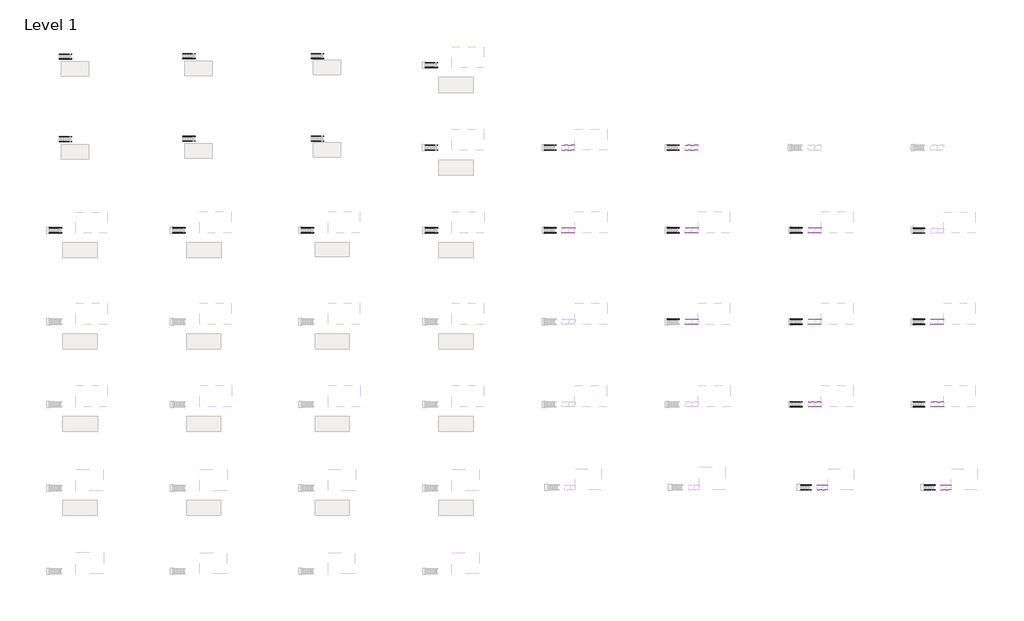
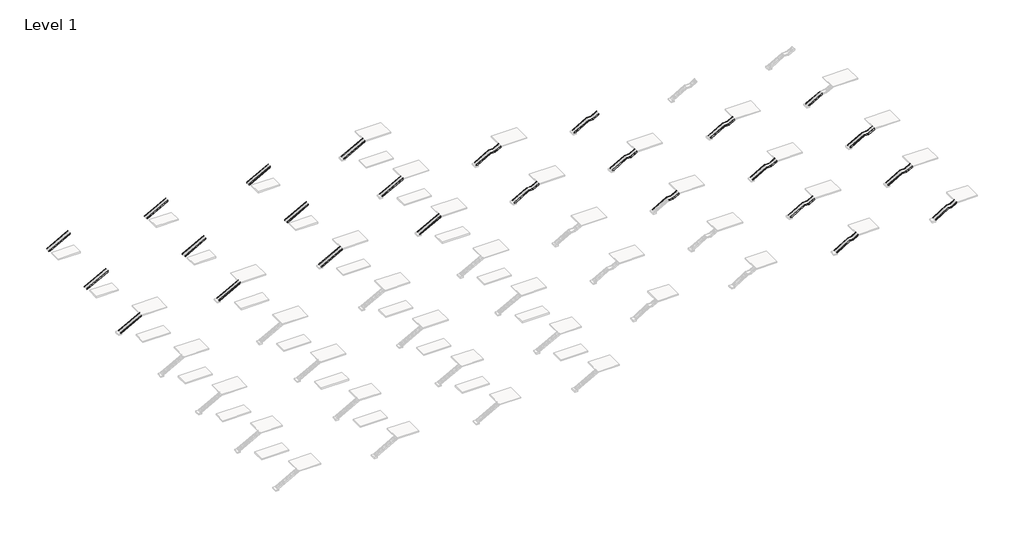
# One storey, part 20 of 21: 97 members.
"""IFC4 building model written with IfcOpenShell, lengths in millimetres."""

from ifc_helpers import new_model, si_unit, frame, origin, place, context, project, spatial, polyline, outline, extrude, element, save

model = new_model("IFC4")

# Units and contexts
model_context = context("Model", 3, world=origin())
ifc_project = project(units=[si_unit("LENGTHUNIT", "METRE", prefix="MILLI")], contexts=[model_context])

# Site, building, storey
site = spatial("IfcSite", under=ifc_project)
building = spatial("IfcBuilding", under=site)
storey = spatial("IfcBuildingStorey", under=building, Name="Level 1", Elevation=0.0)

# Members
placement = place(None, origin())
element("IfcMember", 1, ObjectType="Stringer - 2\" Width", at=placement, inside=storey, context=model_context, shape_type="SweptSolid", body=[
    extrude(outline(polyline([(177.1989729, -14498.1164794), (0.0, -14498.1164794), (0.0, -14212.9808448), (2753.9260175, -9164.1164794), (3086.6535184, -9164.1164794), (177.1989729, -14498.1164794)])), frame((0.0, 16760.4395941, 0.0), z_axis=(0.0, 1.0, 0.0), x_axis=(0.0, 0.0, 1.0)), (0.0, 0.0, 1.0), 50.8),
])
element("IfcMember", 2, ObjectType="Stringer - 2\" Width", at=placement, inside=storey, context=model_context, shape_type="SweptSolid", body=[
    extrude(outline(polyline([(177.1989729, -14498.1164794), (0.0, -14498.1164794), (0.0, -14212.9808448), (2753.9260175, -9164.1164794), (3086.6535184, -9164.1164794), (177.1989729, -14498.1164794)])), frame((0.0, 15795.2395941, 0.0), z_axis=(0.0, 1.0, 0.0), x_axis=(0.0, 0.0, 1.0)), (0.0, 0.0, 1.0), 50.8),
])
element("IfcMember", 3, ObjectType="Stringer - 2\" Width", at=placement, inside=storey, context=model_context, shape_type="SweptSolid", body=[
    extrude(outline(polyline([(177.1989729, 10178.8572927), (0.0, 10178.8572927), (0.0, 10463.9929272), (2753.9260175, 15512.8572927), (3086.6535184, 15512.8572927), (177.1989729, 10178.8572927)])), frame((0.0, 16760.4395941, 0.0), z_axis=(0.0, 1.0, 0.0), x_axis=(0.0, 0.0, 1.0)), (0.0, 0.0, 1.0), 50.8),
])
element("IfcMember", 4, ObjectType="Stringer - 2\" Width", at=placement, inside=storey, context=model_context, shape_type="SweptSolid", body=[
    extrude(outline(polyline([(177.1989729, 10178.8572927), (0.0, 10178.8572927), (0.0, 10463.9929272), (2753.9260175, 15512.8572927), (3086.6535184, 15512.8572927), (177.1989729, 10178.8572927)])), frame((0.0, 15795.2395941, 0.0), z_axis=(0.0, 1.0, 0.0), x_axis=(0.0, 0.0, 1.0)), (0.0, 0.0, 1.0), 50.8),
])
element("IfcMember", 5, ObjectType="Stringer - 2\" Width", at=placement, inside=storey, context=model_context, shape_type="SweptSolid", body=[
    extrude(outline(polyline([(177.1989729, 35782.0572927), (0.0, 35782.0572927), (0.0, 36067.1929272), (2753.9260175, 41116.0572927), (3086.6535184, 41116.0572927), (177.1989729, 35782.0572927)])), frame((0.0, 16760.4395941, 0.0), z_axis=(0.0, 1.0, 0.0), x_axis=(0.0, 0.0, 1.0)), (0.0, 0.0, 1.0), 50.8),
])
element("IfcMember", 6, ObjectType="Stringer - 2\" Width", at=placement, inside=storey, context=model_context, shape_type="SweptSolid", body=[
    extrude(outline(polyline([(177.1989729, 35782.0572927), (0.0, 35782.0572927), (0.0, 36067.1929272), (2753.9260175, 41116.0572927), (3086.6535184, 41116.0572927), (177.1989729, 35782.0572927)])), frame((0.0, 15795.2395941, 0.0), z_axis=(0.0, 1.0, 0.0), x_axis=(0.0, 0.0, 1.0)), (0.0, 0.0, 1.0), 50.8),
])
element("IfcMember", 7, ObjectType="Stringer - 2\" Width", at=placement, inside=storey, context=model_context, shape_type="SweptSolid", body=[
    extrude(outline(polyline([(177.1989729, 60459.0310647), (0.0, 60459.0310647), (0.0, 60744.1666993), (2753.9260175, 65793.0310647), (3086.6535184, 65793.0310647), (177.1989729, 60459.0310647)])), frame((0.0, 16760.4395941, 0.0), z_axis=(0.0, 1.0, 0.0), x_axis=(0.0, 0.0, 1.0)), (0.0, 0.0, 1.0), 50.8),
])
element("IfcMember", 8, ObjectType="Stringer - 2\" Width", at=placement, inside=storey, context=model_context, shape_type="SweptSolid", body=[
    extrude(outline(polyline([(177.1989729, 60459.0310647), (0.0, 60459.0310647), (0.0, 60744.1666993), (2753.9260175, 65793.0310647), (3086.6535184, 65793.0310647), (177.1989729, 60459.0310647)])), frame((0.0, 15795.2395941, 0.0), z_axis=(0.0, 1.0, 0.0), x_axis=(0.0, 0.0, 1.0)), (0.0, 0.0, 1.0), 50.8),
])
element("IfcMember", 9, ObjectType="Stringer - 2\" Width", at=placement, inside=storey, context=model_context, shape_type="SweptSolid", body=[
    extrude(outline(polyline([(177.1989729, 37771.4291841), (0.0, 37771.4291841), (0.0, 38056.5648187), (2753.9260175, 43105.4291841), (3086.6535184, 43105.4291841), (177.1989729, 37771.4291841)])), frame((0.0, 35051.4052558, 0.0), z_axis=(0.0, 1.0, 0.0), x_axis=(0.0, 0.0, 1.0)), (0.0, 0.0, 1.0), 50.8),
])
element("IfcMember", 10, ObjectType="Stringer - 2\" Width", at=placement, inside=storey, context=model_context, shape_type="SweptSolid", body=[
    extrude(outline(polyline([(177.1989729, 37771.4291841), (0.0, 37771.4291841), (0.0, 38056.5648187), (2753.9260175, 43105.4291841), (3086.6535184, 43105.4291841), (177.1989729, 37771.4291841)])), frame((0.0, 34086.2052558, 0.0), z_axis=(0.0, 1.0, 0.0), x_axis=(0.0, 0.0, 1.0)), (0.0, 0.0, 1.0), 50.8),
])
element("IfcMember", 11, ObjectType="Stringer - 2\" Width", at=placement, inside=storey, context=model_context, shape_type="SweptSolid", body=[
    extrude(outline(polyline([(177.1989729, 12106.3166841), (0.0, 12106.3166841), (0.0, 12391.4523187), (2753.9260175, 17440.3166841), (3086.6535184, 17440.3166841), (177.1989729, 12106.3166841)])), frame((0.0, 35025.5929977, 0.0), z_axis=(0.0, 1.0, 0.0), x_axis=(0.0, 0.0, 1.0)), (0.0, 0.0, 1.0), 50.8),
])
element("IfcMember", 12, ObjectType="Stringer - 2\" Width", at=placement, inside=storey, context=model_context, shape_type="SweptSolid", body=[
    extrude(outline(polyline([(177.1989729, 12106.3166841), (0.0, 12106.3166841), (0.0, 12391.4523187), (2753.9260175, 17440.3166841), (3086.6535184, 17440.3166841), (177.1989729, 12106.3166841)])), frame((0.0, 34060.3929977, 0.0), z_axis=(0.0, 1.0, 0.0), x_axis=(0.0, 0.0, 1.0)), (0.0, 0.0, 1.0), 50.8),
])
element("IfcMember", 13, ObjectType="Stringer - 2\" Width", at=placement, inside=storey, context=model_context, shape_type="SweptSolid", body=[
    extrude(outline(polyline([(177.1989729, -12457.4656525), (0.0, -12457.4656525), (0.0, -12172.3300179), (2753.9260175, -7123.4656525), (3086.6535184, -7123.4656525), (177.1989729, -12457.4656525)])), frame((0.0, 34948.402192, 0.0), z_axis=(0.0, 1.0, 0.0), x_axis=(0.0, 0.0, 1.0)), (0.0, 0.0, 1.0), 50.8),
])
element("IfcMember", 14, ObjectType="Stringer - 2\" Width", at=placement, inside=storey, context=model_context, shape_type="SweptSolid", body=[
    extrude(outline(polyline([(177.1989729, -12457.4656525), (0.0, -12457.4656525), (0.0, -12172.3300179), (2753.9260175, -7123.4656525), (3086.6535184, -7123.4656525), (177.1989729, -12457.4656525)])), frame((0.0, 33983.202192, 0.0), z_axis=(0.0, 1.0, 0.0), x_axis=(0.0, 0.0, 1.0)), (0.0, 0.0, 1.0), 50.8),
])
element("IfcMember", 15, ObjectType="Stringer - 2\" Width", at=placement, inside=storey, context=model_context, shape_type="SweptSolid", body=[
    extrude(outline(polyline([(177.1989729, 60449.2027721), (0.0, 60449.2027721), (0.0, 60734.3384067), (2753.9260175, 65783.2027721), (3086.6535184, 65783.2027721), (177.1989729, 60449.2027721)])), frame((0.0, 33246.6812523, 0.0), z_axis=(0.0, 1.0, 0.0), x_axis=(0.0, 0.0, 1.0)), (0.0, 0.0, 1.0), 50.8),
])
element("IfcMember", 16, ObjectType="Stringer - 2\" Width", at=placement, inside=storey, context=model_context, shape_type="SweptSolid", body=[
    extrude(outline(polyline([(177.1989729, 60449.2027721), (0.0, 60449.2027721), (0.0, 60734.3384067), (2753.9260175, 65783.2027721), (3086.6535184, 65783.2027721), (177.1989729, 60449.2027721)])), frame((0.0, 32281.4812523, 0.0), z_axis=(0.0, 1.0, 0.0), x_axis=(0.0, 0.0, 1.0)), (0.0, 0.0, 1.0), 50.8),
])
element("IfcMember", 17, ObjectType="Stringer - 2\" Width", at=placement, inside=storey, context=model_context, shape_type="SweptSolid", body=[
    extrude(outline(polyline([(177.1989729, 37771.4291841), (0.0, 37771.4291841), (0.0, 38056.5648187), (2753.9260175, 43105.4291841), (3086.6535184, 43105.4291841), (177.1989729, 37771.4291841)])), frame((0.0, 51519.3186802, 0.0), z_axis=(0.0, 1.0, 0.0), x_axis=(0.0, 0.0, 1.0)), (0.0, 0.0, 1.0), 50.8),
])
element("IfcMember", 18, ObjectType="Stringer - 2\" Width", at=placement, inside=storey, context=model_context, shape_type="SweptSolid", body=[
    extrude(outline(polyline([(177.1989729, 37771.4291841), (0.0, 37771.4291841), (0.0, 38056.5648187), (2753.9260175, 43105.4291841), (3086.6535184, 43105.4291841), (177.1989729, 37771.4291841)])), frame((0.0, 50554.1186802, 0.0), z_axis=(0.0, 1.0, 0.0), x_axis=(0.0, 0.0, 1.0)), (0.0, 0.0, 1.0), 50.8),
])
element("IfcMember", 19, ObjectType="Stringer - 2\" Width", at=placement, inside=storey, context=model_context, shape_type="SweptSolid", body=[
    extrude(outline(polyline([(177.1989729, -12457.4656525), (0.0, -12457.4656525), (0.0, -12172.3300179), (2753.9260175, -7123.4656525), (3086.6535184, -7123.4656525), (177.1989729, -12457.4656525)])), frame((0.0, 51416.3156164, 0.0), z_axis=(0.0, 1.0, 0.0), x_axis=(0.0, 0.0, 1.0)), (0.0, 0.0, 1.0), 50.8),
])
element("IfcMember", 20, ObjectType="Stringer - 2\" Width", at=placement, inside=storey, context=model_context, shape_type="SweptSolid", body=[
    extrude(outline(polyline([(177.1989729, -12457.4656525), (0.0, -12457.4656525), (0.0, -12172.3300179), (2753.9260175, -7123.4656525), (3086.6535184, -7123.4656525), (177.1989729, -12457.4656525)])), frame((0.0, 50451.1156164, 0.0), z_axis=(0.0, 1.0, 0.0), x_axis=(0.0, 0.0, 1.0)), (0.0, 0.0, 1.0), 50.8),
])
element("IfcMember", 21, ObjectType="Stringer - 2\" Width", at=placement, inside=storey, context=model_context, shape_type="SweptSolid", body=[
    extrude(outline(polyline([(177.1989729, 60449.2027721), (0.0, 60449.2027721), (0.0, 60734.3384067), (2753.9260175, 65783.2027721), (3086.6535184, 65783.2027721), (177.1989729, 60449.2027721)])), frame((0.0, 49714.5946767, 0.0), z_axis=(0.0, 1.0, 0.0), x_axis=(0.0, 0.0, 1.0)), (0.0, 0.0, 1.0), 50.8),
])
element("IfcMember", 22, ObjectType="Stringer - 2\" Width", at=placement, inside=storey, context=model_context, shape_type="SweptSolid", body=[
    extrude(outline(polyline([(177.1989729, 60449.2027721), (0.0, 60449.2027721), (0.0, 60734.3384067), (2753.9260175, 65783.2027721), (3086.6535184, 65783.2027721), (177.1989729, 60449.2027721)])), frame((0.0, 48749.3946767, 0.0), z_axis=(0.0, 1.0, 0.0), x_axis=(0.0, 0.0, 1.0)), (0.0, 0.0, 1.0), 50.8),
])
element("IfcMember", 23, ObjectType="Stringer - 2\" Width", at=placement, inside=storey, context=model_context, shape_type="SweptSolid", body=[
    extrude(outline(polyline([(177.1989729, 12106.3166841), (0.0, 12106.3166841), (0.0, 12391.4523187), (2753.9260175, 17440.3166841), (3086.6535184, 17440.3166841), (177.1989729, 12106.3166841)])), frame((0.0, 51519.3186802, 0.0), z_axis=(0.0, 1.0, 0.0), x_axis=(0.0, 0.0, 1.0)), (0.0, 0.0, 1.0), 50.8),
])
element("IfcMember", 24, ObjectType="Stringer - 2\" Width", at=placement, inside=storey, context=model_context, shape_type="SweptSolid", body=[
    extrude(outline(polyline([(177.1989729, 12106.3166841), (0.0, 12106.3166841), (0.0, 12391.4523187), (2753.9260175, 17440.3166841), (3086.6535184, 17440.3166841), (177.1989729, 12106.3166841)])), frame((0.0, 50554.1186802, 0.0), z_axis=(0.0, 1.0, 0.0), x_axis=(0.0, 0.0, 1.0)), (0.0, 0.0, 1.0), 50.8),
])
element("IfcMember", 25, ObjectType="Stringer - 2\" Width", at=placement, inside=storey, context=model_context, shape_type="SweptSolid", body=[
    extrude(outline(polyline([(179.6072535, 84186.3765442), (0.0, 84186.3765442), (0.0, 84460.8102226), (1916.7928571, 87815.1977226), (2208.8928571, 87737.6263506), (179.6072535, 84186.3765442)])), frame((0.0, 33246.6812523, 0.0), z_axis=(0.0, 1.0, 0.0), x_axis=(0.0, 0.0, 1.0)), (0.0, 0.0, 1.0), 50.8),
])
element("IfcMember", 26, ObjectType="Stringer - 2\" Width", at=placement, inside=storey, context=model_context, shape_type="SweptSolid", body=[
    extrude(outline(polyline([(179.6072535, 84186.3765442), (0.0, 84186.3765442), (0.0, 84460.8102226), (1916.7928571, 87815.1977226), (2208.8928571, 87737.6263506), (179.6072535, 84186.3765442)])), frame((0.0, 32281.4812523, 0.0), z_axis=(0.0, 1.0, 0.0), x_axis=(0.0, 0.0, 1.0)), (0.0, 0.0, 1.0), 50.8),
])
element("IfcMember", 27, ObjectType="Stringer - 2\" Width", at=placement, inside=storey, context=model_context, shape_type="SweptSolid", body=[
    extrude(outline(polyline([(2208.8928571, 88804.4263506), (1916.7928571, 88881.9977226), (2746.037898, 90333.1765442), (3048.0, 90333.1765442), (3048.0, 90272.8638506), (2208.8928571, 88804.4263506)])), frame((0.0, 33246.6812523, 0.0), z_axis=(0.0, 1.0, 0.0), x_axis=(0.0, 0.0, 1.0)), (0.0, 0.0, 1.0), 50.8),
])
element("IfcMember", 28, ObjectType="Stringer - 2\" Width", at=placement, inside=storey, context=model_context, shape_type="SweptSolid", body=[
    extrude(outline(polyline([(2208.8928571, 88804.4263506), (1916.7928571, 88881.9977226), (2746.037898, 90333.1765442), (3048.0, 90333.1765442), (3048.0, 90272.8638506), (2208.8928571, 88804.4263506)])), frame((0.0, 32281.4812523, 0.0), z_axis=(0.0, 1.0, 0.0), x_axis=(0.0, 0.0, 1.0)), (0.0, 0.0, 1.0), 50.8),
])
element("IfcMember", 29, ObjectType="Stringer - 2\" Width", at=placement, inside=storey, context=model_context, shape_type="SweptSolid", body=[
    extrude(outline(polyline([(1916.7928571, 88881.9977226), (2208.8928571, 88804.4263506), (2208.8928571, 87737.6263506), (1916.7928571, 87815.1977226), (1916.7928571, 88881.9977226)])), frame((0.0, 33246.6812523, 0.0), z_axis=(0.0, 1.0, 0.0), x_axis=(0.0, 0.0, 1.0)), (0.0, 0.0, 1.0), 50.8),
])
element("IfcMember", 30, ObjectType="Stringer - 2\" Width", at=placement, inside=storey, context=model_context, shape_type="SweptSolid", body=[
    extrude(outline(polyline([(2208.8928571, 87737.6263506), (1916.7928571, 87815.1977226), (1916.7928571, 88881.9977226), (2208.8928571, 88804.4263506), (2208.8928571, 87737.6263506)])), frame((0.0, 32281.4812523, 0.0), z_axis=(0.0, 1.0, 0.0), x_axis=(0.0, 0.0, 1.0)), (0.0, 0.0, 1.0), 50.8),
])
element("IfcMember", 31, ObjectType="Stringer - 2\" Width", at=placement, inside=storey, context=model_context, shape_type="SweptSolid", body=[
    extrude(outline(polyline([(179.6072535, 84196.2048368), (0.0, 84196.2048368), (0.0, 84470.6385153), (1916.7928571, 87825.0260153), (2208.8928571, 87747.4546432), (179.6072535, 84196.2048368)])), frame((0.0, 16760.4395941, 0.0), z_axis=(0.0, 1.0, 0.0), x_axis=(0.0, 0.0, 1.0)), (0.0, 0.0, 1.0), 50.8),
])
element("IfcMember", 32, ObjectType="Stringer - 2\" Width", at=placement, inside=storey, context=model_context, shape_type="SweptSolid", body=[
    extrude(outline(polyline([(179.6072535, 84196.2048368), (0.0, 84196.2048368), (0.0, 84470.6385153), (1916.7928571, 87825.0260153), (2208.8928571, 87747.4546432), (179.6072535, 84196.2048368)])), frame((0.0, 15795.2395941, 0.0), z_axis=(0.0, 1.0, 0.0), x_axis=(0.0, 0.0, 1.0)), (0.0, 0.0, 1.0), 50.8),
])
element("IfcMember", 33, ObjectType="Stringer - 2\" Width", at=placement, inside=storey, context=model_context, shape_type="SweptSolid", body=[
    extrude(outline(polyline([(2208.8928571, 88814.2546432), (1916.7928571, 88891.8260153), (2746.037898, 90343.0048368), (3048.0, 90343.0048368), (3048.0, 90282.6921432), (2208.8928571, 88814.2546432)])), frame((0.0, 16760.4395941, 0.0), z_axis=(0.0, 1.0, 0.0), x_axis=(0.0, 0.0, 1.0)), (0.0, 0.0, 1.0), 50.8),
])
element("IfcMember", 34, ObjectType="Stringer - 2\" Width", at=placement, inside=storey, context=model_context, shape_type="SweptSolid", body=[
    extrude(outline(polyline([(2208.8928571, 88814.2546432), (1916.7928571, 88891.8260153), (2746.037898, 90343.0048368), (3048.0, 90343.0048368), (3048.0, 90282.6921432), (2208.8928571, 88814.2546432)])), frame((0.0, 15795.2395941, 0.0), z_axis=(0.0, 1.0, 0.0), x_axis=(0.0, 0.0, 1.0)), (0.0, 0.0, 1.0), 50.8),
])
element("IfcMember", 35, ObjectType="Stringer - 2\" Width", at=placement, inside=storey, context=model_context, shape_type="SweptSolid", body=[
    extrude(outline(polyline([(1916.7928571, 88891.8260153), (2208.8928571, 88814.2546432), (2208.8928571, 87747.4546432), (1916.7928571, 87825.0260153), (1916.7928571, 88891.8260153)])), frame((0.0, 16760.4395941, 0.0), z_axis=(0.0, 1.0, 0.0), x_axis=(0.0, 0.0, 1.0)), (0.0, 0.0, 1.0), 50.8),
])
element("IfcMember", 36, ObjectType="Stringer - 2\" Width", at=placement, inside=storey, context=model_context, shape_type="SweptSolid", body=[
    extrude(outline(polyline([(2208.8928571, 87747.4546432), (1916.7928571, 87825.0260153), (1916.7928571, 88891.8260153), (2208.8928571, 88814.2546432), (2208.8928571, 87747.4546432)])), frame((0.0, 15795.2395941, 0.0), z_axis=(0.0, 1.0, 0.0), x_axis=(0.0, 0.0, 1.0)), (0.0, 0.0, 1.0), 50.8),
])
element("IfcMember", 37, ObjectType="Stringer - 2\" Width", at=placement, inside=storey, context=model_context, shape_type="SweptSolid", body=[
    extrude(outline(polyline([(179.6072535, 108746.1786089), (0.0, 108746.1786089), (0.0, 109020.6122873), (1916.7928571, 112374.9997873), (2208.8928571, 112297.4284152), (179.6072535, 108746.1786089)])), frame((0.0, 16760.4395941, 0.0), z_axis=(0.0, 1.0, 0.0), x_axis=(0.0, 0.0, 1.0)), (0.0, 0.0, 1.0), 50.8),
])
element("IfcMember", 38, ObjectType="Stringer - 2\" Width", at=placement, inside=storey, context=model_context, shape_type="SweptSolid", body=[
    extrude(outline(polyline([(179.6072535, 108746.1786089), (0.0, 108746.1786089), (0.0, 109020.6122873), (1916.7928571, 112374.9997873), (2208.8928571, 112297.4284152), (179.6072535, 108746.1786089)])), frame((0.0, 15795.2395941, 0.0), z_axis=(0.0, 1.0, 0.0), x_axis=(0.0, 0.0, 1.0)), (0.0, 0.0, 1.0), 50.8),
])
element("IfcMember", 39, ObjectType="Stringer - 2\" Width", at=placement, inside=storey, context=model_context, shape_type="SweptSolid", body=[
    extrude(outline(polyline([(2208.8928571, 113364.2284152), (1916.7928571, 113441.7997873), (2746.037898, 114892.9786089), (3048.0, 114892.9786089), (3048.0, 114832.6659152), (2208.8928571, 113364.2284152)])), frame((0.0, 16760.4395941, 0.0), z_axis=(0.0, 1.0, 0.0), x_axis=(0.0, 0.0, 1.0)), (0.0, 0.0, 1.0), 50.8),
])
element("IfcMember", 40, ObjectType="Stringer - 2\" Width", at=placement, inside=storey, context=model_context, shape_type="SweptSolid", body=[
    extrude(outline(polyline([(2208.8928571, 113364.2284152), (1916.7928571, 113441.7997873), (2746.037898, 114892.9786089), (3048.0, 114892.9786089), (3048.0, 114832.6659152), (2208.8928571, 113364.2284152)])), frame((0.0, 15795.2395941, 0.0), z_axis=(0.0, 1.0, 0.0), x_axis=(0.0, 0.0, 1.0)), (0.0, 0.0, 1.0), 50.8),
])
element("IfcMember", 41, ObjectType="Stringer - 2\" Width", at=placement, inside=storey, context=model_context, shape_type="SweptSolid", body=[
    extrude(outline(polyline([(1916.7928571, 113441.7997873), (2208.8928571, 113364.2284152), (2208.8928571, 112297.4284152), (1916.7928571, 112374.9997873), (1916.7928571, 113441.7997873)])), frame((0.0, 16760.4395941, 0.0), z_axis=(0.0, 1.0, 0.0), x_axis=(0.0, 0.0, 1.0)), (0.0, 0.0, 1.0), 50.8),
])
element("IfcMember", 42, ObjectType="Stringer - 2\" Width", at=placement, inside=storey, context=model_context, shape_type="SweptSolid", body=[
    extrude(outline(polyline([(2208.8928571, 112297.4284152), (1916.7928571, 112374.9997873), (1916.7928571, 113441.7997873), (2208.8928571, 113364.2284152), (2208.8928571, 112297.4284152)])), frame((0.0, 15795.2395941, 0.0), z_axis=(0.0, 1.0, 0.0), x_axis=(0.0, 0.0, 1.0)), (0.0, 0.0, 1.0), 50.8),
])
element("IfcMember", 43, ObjectType="Stringer - 2\" Width", at=placement, inside=storey, context=model_context, shape_type="SweptSolid", body=[
    extrude(outline(polyline([(179.6072535, 108746.1786089), (0.0, 108746.1786089), (0.0, 109020.6122873), (1916.7928571, 112374.9997873), (2208.8928571, 112297.4284152), (179.6072535, 108746.1786089)])), frame((0.0, -1486.3855758, 0.0), z_axis=(0.0, 1.0, 0.0), x_axis=(0.0, 0.0, 1.0)), (0.0, 0.0, 1.0), 50.8),
])
element("IfcMember", 44, ObjectType="Stringer - 2\" Width", at=placement, inside=storey, context=model_context, shape_type="SweptSolid", body=[
    extrude(outline(polyline([(2208.8928571, 113364.2284152), (1916.7928571, 113441.7997873), (2746.037898, 114892.9786089), (3048.0, 114892.9786089), (3048.0, 114832.6659152), (2208.8928571, 113364.2284152)])), frame((0.0, -1486.3855758, 0.0), z_axis=(0.0, 1.0, 0.0), x_axis=(0.0, 0.0, 1.0)), (0.0, 0.0, 1.0), 50.8),
])
element("IfcMember", 45, ObjectType="Stringer - 2\" Width", at=placement, inside=storey, context=model_context, shape_type="SweptSolid", body=[
    extrude(outline(polyline([(2208.8928571, 113364.2284152), (1916.7928571, 113441.7997873), (2746.037898, 114892.9786089), (3048.0, 114892.9786089), (3048.0, 114832.6659152), (2208.8928571, 113364.2284152)])), frame((0.0, -2451.5855758, 0.0), z_axis=(0.0, 1.0, 0.0), x_axis=(0.0, 0.0, 1.0)), (0.0, 0.0, 1.0), 50.8),
])
element("IfcMember", 46, ObjectType="Stringer - 2\" Width", at=placement, inside=storey, context=model_context, shape_type="SweptSolid", body=[
    extrude(outline(polyline([(1916.7928571, 113441.7997873), (2208.8928571, 113364.2284152), (2208.8928571, 112297.4284152), (1916.7928571, 112374.9997873), (1916.7928571, 113441.7997873)])), frame((0.0, -1486.3855758, 0.0), z_axis=(0.0, 1.0, 0.0), x_axis=(0.0, 0.0, 1.0)), (0.0, 0.0, 1.0), 50.8),
])
element("IfcMember", 47, ObjectType="Stringer - 2\" Width", at=placement, inside=storey, context=model_context, shape_type="SweptSolid", body=[
    extrude(outline(polyline([(2208.8928571, 112297.4284152), (1916.7928571, 112374.9997873), (1916.7928571, 113441.7997873), (2208.8928571, 113364.2284152), (2208.8928571, 112297.4284152)])), frame((0.0, -2451.5855758, 0.0), z_axis=(0.0, 1.0, 0.0), x_axis=(0.0, 0.0, 1.0)), (0.0, 0.0, 1.0), 50.8),
])
element("IfcMember", 48, ObjectType="Stringer - 2\" Width", at=placement, inside=storey, context=model_context, shape_type="SweptSolid", body=[
    extrude(outline(polyline([(179.6072535, 108736.3503162), (0.0, 108736.3503162), (0.0, 109010.7839947), (1916.7928571, 112365.1714947), (2208.8928571, 112287.6001226), (179.6072535, 108736.3503162)])), frame((0.0, 33246.6812523, 0.0), z_axis=(0.0, 1.0, 0.0), x_axis=(0.0, 0.0, 1.0)), (0.0, 0.0, 1.0), 50.8),
])
element("IfcMember", 49, ObjectType="Stringer - 2\" Width", at=placement, inside=storey, context=model_context, shape_type="SweptSolid", body=[
    extrude(outline(polyline([(179.6072535, 108736.3503162), (0.0, 108736.3503162), (0.0, 109010.7839947), (1916.7928571, 112365.1714947), (2208.8928571, 112287.6001226), (179.6072535, 108736.3503162)])), frame((0.0, 32281.4812523, 0.0), z_axis=(0.0, 1.0, 0.0), x_axis=(0.0, 0.0, 1.0)), (0.0, 0.0, 1.0), 50.8),
])
element("IfcMember", 50, ObjectType="Stringer - 2\" Width", at=placement, inside=storey, context=model_context, shape_type="SweptSolid", body=[
    extrude(outline(polyline([(2208.8928571, 113354.4001226), (1916.7928571, 113431.9714947), (2746.037898, 114883.1503162), (3048.0, 114883.1503162), (3048.0, 114822.8376226), (2208.8928571, 113354.4001226)])), frame((0.0, 33246.6812523, 0.0), z_axis=(0.0, 1.0, 0.0), x_axis=(0.0, 0.0, 1.0)), (0.0, 0.0, 1.0), 50.8),
])
element("IfcMember", 51, ObjectType="Stringer - 2\" Width", at=placement, inside=storey, context=model_context, shape_type="SweptSolid", body=[
    extrude(outline(polyline([(2208.8928571, 113354.4001226), (1916.7928571, 113431.9714947), (2746.037898, 114883.1503162), (3048.0, 114883.1503162), (3048.0, 114822.8376226), (2208.8928571, 113354.4001226)])), frame((0.0, 32281.4812523, 0.0), z_axis=(0.0, 1.0, 0.0), x_axis=(0.0, 0.0, 1.0)), (0.0, 0.0, 1.0), 50.8),
])
element("IfcMember", 52, ObjectType="Stringer - 2\" Width", at=placement, inside=storey, context=model_context, shape_type="SweptSolid", body=[
    extrude(outline(polyline([(1916.7928571, 113431.9714947), (2208.8928571, 113354.4001226), (2208.8928571, 112287.6001226), (1916.7928571, 112365.1714947), (1916.7928571, 113431.9714947)])), frame((0.0, 33246.6812523, 0.0), z_axis=(0.0, 1.0, 0.0), x_axis=(0.0, 0.0, 1.0)), (0.0, 0.0, 1.0), 50.8),
])
element("IfcMember", 53, ObjectType="Stringer - 2\" Width", at=placement, inside=storey, context=model_context, shape_type="SweptSolid", body=[
    extrude(outline(polyline([(2208.8928571, 112287.6001226), (1916.7928571, 112365.1714947), (1916.7928571, 113431.9714947), (2208.8928571, 113354.4001226), (2208.8928571, 112287.6001226)])), frame((0.0, 32281.4812523, 0.0), z_axis=(0.0, 1.0, 0.0), x_axis=(0.0, 0.0, 1.0)), (0.0, 0.0, 1.0), 50.8),
])
element("IfcMember", 54, ObjectType="Stringer - 2\" Width", at=placement, inside=storey, context=model_context, shape_type="SweptSolid", body=[
    extrude(outline(polyline([(179.6072535, 133296.1523809), (0.0, 133296.1523809), (0.0, 133570.5860594), (1916.7928571, 136924.9735594), (2208.8928571, 136847.4021873), (179.6072535, 133296.1523809)])), frame((0.0, 16760.4395941, 0.0), z_axis=(0.0, 1.0, 0.0), x_axis=(0.0, 0.0, 1.0)), (0.0, 0.0, 1.0), 50.8),
])
element("IfcMember", 55, ObjectType="Stringer - 2\" Width", at=placement, inside=storey, context=model_context, shape_type="SweptSolid", body=[
    extrude(outline(polyline([(179.6072535, 133296.1523809), (0.0, 133296.1523809), (0.0, 133570.5860594), (1916.7928571, 136924.9735594), (2208.8928571, 136847.4021873), (179.6072535, 133296.1523809)])), frame((0.0, 15795.2395941, 0.0), z_axis=(0.0, 1.0, 0.0), x_axis=(0.0, 0.0, 1.0)), (0.0, 0.0, 1.0), 50.8),
])
element("IfcMember", 56, ObjectType="Stringer - 2\" Width", at=placement, inside=storey, context=model_context, shape_type="SweptSolid", body=[
    extrude(outline(polyline([(2208.8928571, 137914.2021873), (1916.7928571, 137991.7735594), (2746.037898, 139442.9523809), (3048.0, 139442.9523809), (3048.0, 139382.6396873), (2208.8928571, 137914.2021873)])), frame((0.0, 16760.4395941, 0.0), z_axis=(0.0, 1.0, 0.0), x_axis=(0.0, 0.0, 1.0)), (0.0, 0.0, 1.0), 50.8),
])
element("IfcMember", 57, ObjectType="Stringer - 2\" Width", at=placement, inside=storey, context=model_context, shape_type="SweptSolid", body=[
    extrude(outline(polyline([(2208.8928571, 137914.2021873), (1916.7928571, 137991.7735594), (2746.037898, 139442.9523809), (3048.0, 139442.9523809), (3048.0, 139382.6396873), (2208.8928571, 137914.2021873)])), frame((0.0, 15795.2395941, 0.0), z_axis=(0.0, 1.0, 0.0), x_axis=(0.0, 0.0, 1.0)), (0.0, 0.0, 1.0), 50.8),
])
element("IfcMember", 58, ObjectType="Stringer - 2\" Width", at=placement, inside=storey, context=model_context, shape_type="SweptSolid", body=[
    extrude(outline(polyline([(1916.7928571, 137991.7735594), (2208.8928571, 137914.2021873), (2208.8928571, 136847.4021873), (1916.7928571, 136924.9735594), (1916.7928571, 137991.7735594)])), frame((0.0, 16760.4395941, 0.0), z_axis=(0.0, 1.0, 0.0), x_axis=(0.0, 0.0, 1.0)), (0.0, 0.0, 1.0), 50.8),
])
element("IfcMember", 59, ObjectType="Stringer - 2\" Width", at=placement, inside=storey, context=model_context, shape_type="SweptSolid", body=[
    extrude(outline(polyline([(2208.8928571, 136847.4021873), (1916.7928571, 136924.9735594), (1916.7928571, 137991.7735594), (2208.8928571, 137914.2021873), (2208.8928571, 136847.4021873)])), frame((0.0, 15795.2395941, 0.0), z_axis=(0.0, 1.0, 0.0), x_axis=(0.0, 0.0, 1.0)), (0.0, 0.0, 1.0), 50.8),
])
element("IfcMember", 60, ObjectType="Stringer - 2\" Width", at=placement, inside=storey, context=model_context, shape_type="SweptSolid", body=[
    extrude(outline(polyline([(179.6072535, 133296.1523809), (0.0, 133296.1523809), (0.0, 133570.5860594), (1916.7928571, 136924.9735594), (2208.8928571, 136847.4021873), (179.6072535, 133296.1523809)])), frame((0.0, -1486.3855758, 0.0), z_axis=(0.0, 1.0, 0.0), x_axis=(0.0, 0.0, 1.0)), (0.0, 0.0, 1.0), 50.8),
])
element("IfcMember", 61, ObjectType="Stringer - 2\" Width", at=placement, inside=storey, context=model_context, shape_type="SweptSolid", body=[
    extrude(outline(polyline([(179.6072535, 133296.1523809), (0.0, 133296.1523809), (0.0, 133570.5860594), (1916.7928571, 136924.9735594), (2208.8928571, 136847.4021873), (179.6072535, 133296.1523809)])), frame((0.0, -2451.5855758, 0.0), z_axis=(0.0, 1.0, 0.0), x_axis=(0.0, 0.0, 1.0)), (0.0, 0.0, 1.0), 50.8),
])
element("IfcMember", 62, ObjectType="Stringer - 2\" Width", at=placement, inside=storey, context=model_context, shape_type="SweptSolid", body=[
    extrude(outline(polyline([(2208.8928571, 137914.2021873), (1916.7928571, 137991.7735594), (2746.037898, 139442.9523809), (3048.0, 139442.9523809), (3048.0, 139382.6396873), (2208.8928571, 137914.2021873)])), frame((0.0, -1486.3855758, 0.0), z_axis=(0.0, 1.0, 0.0), x_axis=(0.0, 0.0, 1.0)), (0.0, 0.0, 1.0), 50.8),
])
element("IfcMember", 63, ObjectType="Stringer - 2\" Width", at=placement, inside=storey, context=model_context, shape_type="SweptSolid", body=[
    extrude(outline(polyline([(2208.8928571, 137914.2021873), (1916.7928571, 137991.7735594), (2746.037898, 139442.9523809), (3048.0, 139442.9523809), (3048.0, 139382.6396873), (2208.8928571, 137914.2021873)])), frame((0.0, -2451.5855758, 0.0), z_axis=(0.0, 1.0, 0.0), x_axis=(0.0, 0.0, 1.0)), (0.0, 0.0, 1.0), 50.8),
])
element("IfcMember", 64, ObjectType="Stringer - 2\" Width", at=placement, inside=storey, context=model_context, shape_type="SweptSolid", body=[
    extrude(outline(polyline([(1916.7928571, 137991.7735594), (2208.8928571, 137914.2021873), (2208.8928571, 136847.4021873), (1916.7928571, 136924.9735594), (1916.7928571, 137991.7735594)])), frame((0.0, -1486.3855758, 0.0), z_axis=(0.0, 1.0, 0.0), x_axis=(0.0, 0.0, 1.0)), (0.0, 0.0, 1.0), 50.8),
])
element("IfcMember", 65, ObjectType="Stringer - 2\" Width", at=placement, inside=storey, context=model_context, shape_type="SweptSolid", body=[
    extrude(outline(polyline([(2208.8928571, 136847.4021873), (1916.7928571, 136924.9735594), (1916.7928571, 137991.7735594), (2208.8928571, 137914.2021873), (2208.8928571, 136847.4021873)])), frame((0.0, -2451.5855758, 0.0), z_axis=(0.0, 1.0, 0.0), x_axis=(0.0, 0.0, 1.0)), (0.0, 0.0, 1.0), 50.8),
])
element("IfcMember", 66, ObjectType="Stringer - 2\" Width", at=placement, inside=storey, context=model_context, shape_type="SweptSolid", body=[
    extrude(outline(polyline([(179.6072535, 133296.1523809), (0.0, 133296.1523809), (0.0, 133570.5860594), (1916.7928571, 136924.9735594), (2208.8928571, 136847.4021873), (179.6072535, 133296.1523809)])), frame((0.0, -17954.2990002, 0.0), z_axis=(0.0, 1.0, 0.0), x_axis=(0.0, 0.0, 1.0)), (0.0, 0.0, 1.0), 50.8),
])
element("IfcMember", 67, ObjectType="Stringer - 2\" Width", at=placement, inside=storey, context=model_context, shape_type="SweptSolid", body=[
    extrude(outline(polyline([(179.6072535, 133296.1523809), (0.0, 133296.1523809), (0.0, 133570.5860594), (1916.7928571, 136924.9735594), (2208.8928571, 136847.4021873), (179.6072535, 133296.1523809)])), frame((0.0, -18919.4990002, 0.0), z_axis=(0.0, 1.0, 0.0), x_axis=(0.0, 0.0, 1.0)), (0.0, 0.0, 1.0), 50.8),
])
element("IfcMember", 68, ObjectType="Stringer - 2\" Width", at=placement, inside=storey, context=model_context, shape_type="SweptSolid", body=[
    extrude(outline(polyline([(2208.8928571, 137914.2021873), (1916.7928571, 137991.7735594), (2746.037898, 139442.9523809), (3048.0, 139442.9523809), (3048.0, 139382.6396873), (2208.8928571, 137914.2021873)])), frame((0.0, -17954.2990002, 0.0), z_axis=(0.0, 1.0, 0.0), x_axis=(0.0, 0.0, 1.0)), (0.0, 0.0, 1.0), 50.8),
])
element("IfcMember", 69, ObjectType="Stringer - 2\" Width", at=placement, inside=storey, context=model_context, shape_type="SweptSolid", body=[
    extrude(outline(polyline([(2208.8928571, 137914.2021873), (1916.7928571, 137991.7735594), (2746.037898, 139442.9523809), (3048.0, 139442.9523809), (3048.0, 139382.6396873), (2208.8928571, 137914.2021873)])), frame((0.0, -18919.4990002, 0.0), z_axis=(0.0, 1.0, 0.0), x_axis=(0.0, 0.0, 1.0)), (0.0, 0.0, 1.0), 50.8),
])
element("IfcMember", 70, ObjectType="Stringer - 2\" Width", at=placement, inside=storey, context=model_context, shape_type="SweptSolid", body=[
    extrude(outline(polyline([(1916.7928571, 137991.7735594), (2208.8928571, 137914.2021873), (2208.8928571, 136847.4021873), (1916.7928571, 136924.9735594), (1916.7928571, 137991.7735594)])), frame((0.0, -17954.2990002, 0.0), z_axis=(0.0, 1.0, 0.0), x_axis=(0.0, 0.0, 1.0)), (0.0, 0.0, 1.0), 50.8),
])
element("IfcMember", 71, ObjectType="Stringer - 2\" Width", at=placement, inside=storey, context=model_context, shape_type="SweptSolid", body=[
    extrude(outline(polyline([(2208.8928571, 136847.4021873), (1916.7928571, 136924.9735594), (1916.7928571, 137991.7735594), (2208.8928571, 137914.2021873), (2208.8928571, 136847.4021873)])), frame((0.0, -18919.4990002, 0.0), z_axis=(0.0, 1.0, 0.0), x_axis=(0.0, 0.0, 1.0)), (0.0, 0.0, 1.0), 50.8),
])
element("IfcMember", 72, ObjectType="Stringer - 2\" Width", at=placement, inside=storey, context=model_context, shape_type="SweptSolid", body=[
    extrude(outline(polyline([(179.6072535, 157742.0311068), (0.0, 157742.0311068), (0.0, 158016.4647852), (1916.7928571, 161370.8522852), (2208.8928571, 161293.2809132), (179.6072535, 157742.0311068)])), frame((0.0, 16680.5265585, 0.0), z_axis=(0.0, 1.0, 0.0), x_axis=(0.0, 0.0, 1.0)), (0.0, 0.0, 1.0), 50.8),
])
element("IfcMember", 73, ObjectType="Stringer - 2\" Width", at=placement, inside=storey, context=model_context, shape_type="SweptSolid", body=[
    extrude(outline(polyline([(179.6072535, 157742.0311068), (0.0, 157742.0311068), (0.0, 158016.4647852), (1916.7928571, 161370.8522852), (2208.8928571, 161293.2809132), (179.6072535, 157742.0311068)])), frame((0.0, 15715.3265585, 0.0), z_axis=(0.0, 1.0, 0.0), x_axis=(0.0, 0.0, 1.0)), (0.0, 0.0, 1.0), 50.8),
])
element("IfcMember", 74, ObjectType="Stringer - 2\" Width", at=placement, inside=storey, context=model_context, shape_type="SweptSolid", body=[
    extrude(outline(polyline([(179.6072535, 157742.0311068), (0.0, 157742.0311068), (0.0, 158016.4647852), (1916.7928571, 161370.8522852), (2208.8928571, 161293.2809132), (179.6072535, 157742.0311068)])), frame((0.0, -1486.3855758, 0.0), z_axis=(0.0, 1.0, 0.0), x_axis=(0.0, 0.0, 1.0)), (0.0, 0.0, 1.0), 50.8),
])
element("IfcMember", 75, ObjectType="Stringer - 2\" Width", at=placement, inside=storey, context=model_context, shape_type="SweptSolid", body=[
    extrude(outline(polyline([(179.6072535, 157742.0311068), (0.0, 157742.0311068), (0.0, 158016.4647852), (1916.7928571, 161370.8522852), (2208.8928571, 161293.2809132), (179.6072535, 157742.0311068)])), frame((0.0, -2451.5855758, 0.0), z_axis=(0.0, 1.0, 0.0), x_axis=(0.0, 0.0, 1.0)), (0.0, 0.0, 1.0), 50.8),
])
element("IfcMember", 76, ObjectType="Stringer - 2\" Width", at=placement, inside=storey, context=model_context, shape_type="SweptSolid", body=[
    extrude(outline(polyline([(2208.8928571, 162360.0809132), (1916.7928571, 162437.6522852), (2746.037898, 163888.8311068), (3048.0, 163888.8311068), (3048.0, 163828.5184132), (2208.8928571, 162360.0809132)])), frame((0.0, -1486.3855758, 0.0), z_axis=(0.0, 1.0, 0.0), x_axis=(0.0, 0.0, 1.0)), (0.0, 0.0, 1.0), 50.8),
])
element("IfcMember", 77, ObjectType="Stringer - 2\" Width", at=placement, inside=storey, context=model_context, shape_type="SweptSolid", body=[
    extrude(outline(polyline([(2208.8928571, 162360.0809132), (1916.7928571, 162437.6522852), (2746.037898, 163888.8311068), (3048.0, 163888.8311068), (3048.0, 163828.5184132), (2208.8928571, 162360.0809132)])), frame((0.0, -2451.5855758, 0.0), z_axis=(0.0, 1.0, 0.0), x_axis=(0.0, 0.0, 1.0)), (0.0, 0.0, 1.0), 50.8),
])
element("IfcMember", 78, ObjectType="Stringer - 2\" Width", at=placement, inside=storey, context=model_context, shape_type="SweptSolid", body=[
    extrude(outline(polyline([(1916.7928571, 162437.6522852), (2208.8928571, 162360.0809132), (2208.8928571, 161293.2809132), (1916.7928571, 161370.8522852), (1916.7928571, 162437.6522852)])), frame((0.0, -1486.3855758, 0.0), z_axis=(0.0, 1.0, 0.0), x_axis=(0.0, 0.0, 1.0)), (0.0, 0.0, 1.0), 50.8),
])
element("IfcMember", 79, ObjectType="Stringer - 2\" Width", at=placement, inside=storey, context=model_context, shape_type="SweptSolid", body=[
    extrude(outline(polyline([(2208.8928571, 161293.2809132), (1916.7928571, 161370.8522852), (1916.7928571, 162437.6522852), (2208.8928571, 162360.0809132), (2208.8928571, 161293.2809132)])), frame((0.0, -2451.5855758, 0.0), z_axis=(0.0, 1.0, 0.0), x_axis=(0.0, 0.0, 1.0)), (0.0, 0.0, 1.0), 50.8),
])
element("IfcMember", 80, ObjectType="Stringer - 2\" Width", at=placement, inside=storey, context=model_context, shape_type="SweptSolid", body=[
    extrude(outline(polyline([(179.6072535, 157742.0311068), (0.0, 157742.0311068), (0.0, 158016.4647852), (1916.7928571, 161370.8522852), (2208.8928571, 161293.2809132), (179.6072535, 157742.0311068)])), frame((0.0, -17954.2990002, 0.0), z_axis=(0.0, 1.0, 0.0), x_axis=(0.0, 0.0, 1.0)), (0.0, 0.0, 1.0), 50.8),
])
element("IfcMember", 81, ObjectType="Stringer - 2\" Width", at=placement, inside=storey, context=model_context, shape_type="SweptSolid", body=[
    extrude(outline(polyline([(179.6072535, 157742.0311068), (0.0, 157742.0311068), (0.0, 158016.4647852), (1916.7928571, 161370.8522852), (2208.8928571, 161293.2809132), (179.6072535, 157742.0311068)])), frame((0.0, -18919.4990002, 0.0), z_axis=(0.0, 1.0, 0.0), x_axis=(0.0, 0.0, 1.0)), (0.0, 0.0, 1.0), 50.8),
])
element("IfcMember", 82, ObjectType="Stringer - 2\" Width", at=placement, inside=storey, context=model_context, shape_type="SweptSolid", body=[
    extrude(outline(polyline([(2208.8928571, 162360.0809132), (1916.7928571, 162437.6522852), (2746.037898, 163888.8311068), (3048.0, 163888.8311068), (3048.0, 163828.5184132), (2208.8928571, 162360.0809132)])), frame((0.0, -17954.2990002, 0.0), z_axis=(0.0, 1.0, 0.0), x_axis=(0.0, 0.0, 1.0)), (0.0, 0.0, 1.0), 50.8),
])
element("IfcMember", 83, ObjectType="Stringer - 2\" Width", at=placement, inside=storey, context=model_context, shape_type="SweptSolid", body=[
    extrude(outline(polyline([(2208.8928571, 162360.0809132), (1916.7928571, 162437.6522852), (2746.037898, 163888.8311068), (3048.0, 163888.8311068), (3048.0, 163828.5184132), (2208.8928571, 162360.0809132)])), frame((0.0, -18919.4990002, 0.0), z_axis=(0.0, 1.0, 0.0), x_axis=(0.0, 0.0, 1.0)), (0.0, 0.0, 1.0), 50.8),
])
element("IfcMember", 84, ObjectType="Stringer - 2\" Width", at=placement, inside=storey, context=model_context, shape_type="SweptSolid", body=[
    extrude(outline(polyline([(1916.7928571, 162437.6522852), (2208.8928571, 162360.0809132), (2208.8928571, 161293.2809132), (1916.7928571, 161370.8522852), (1916.7928571, 162437.6522852)])), frame((0.0, -17954.2990002, 0.0), z_axis=(0.0, 1.0, 0.0), x_axis=(0.0, 0.0, 1.0)), (0.0, 0.0, 1.0), 50.8),
])
element("IfcMember", 85, ObjectType="Stringer - 2\" Width", at=placement, inside=storey, context=model_context, shape_type="SweptSolid", body=[
    extrude(outline(polyline([(2208.8928571, 161293.2809132), (1916.7928571, 161370.8522852), (1916.7928571, 162437.6522852), (2208.8928571, 162360.0809132), (2208.8928571, 161293.2809132)])), frame((0.0, -18919.4990002, 0.0), z_axis=(0.0, 1.0, 0.0), x_axis=(0.0, 0.0, 1.0)), (0.0, 0.0, 1.0), 50.8),
])
element("IfcMember", 86, ObjectType="Stringer - 2\" Width", at=placement, inside=storey, context=model_context, shape_type="SweptSolid", body=[
    extrude(outline(polyline([(185.523793, 135309.0944894), (0.0, 135309.0944894), (0.0, 135562.3594085), (1985.5447368, 138706.1385752), (2277.6447368, 138621.6193172), (185.523793, 135309.0944894)])), frame((0.0, -34537.0428514, 0.0), z_axis=(0.0, 1.0, 0.0), x_axis=(0.0, 0.0, 1.0)), (0.0, 0.0, 1.0), 50.8),
])
element("IfcMember", 87, ObjectType="Stringer - 2\" Width", at=placement, inside=storey, context=model_context, shape_type="SweptSolid", body=[
    extrude(outline(polyline([(185.523793, 135309.0944894), (0.0, 135309.0944894), (0.0, 135562.3594085), (1985.5447368, 138706.1385752), (2277.6447368, 138621.6193172), (185.523793, 135309.0944894)])), frame((0.0, -35502.2428514, 0.0), z_axis=(0.0, 1.0, 0.0), x_axis=(0.0, 0.0, 1.0)), (0.0, 0.0, 1.0), 50.8),
])
element("IfcMember", 88, ObjectType="Stringer - 2\" Width", at=placement, inside=storey, context=model_context, shape_type="SweptSolid", body=[
    extrude(outline(polyline([(2277.6447368, 139434.4193172), (1985.5447368, 139518.9385752), (2727.6221564, 140693.8944894), (3048.0, 140693.8944894), (3048.0, 140654.1484839), (2277.6447368, 139434.4193172)])), frame((0.0, -34537.0428514, 0.0), z_axis=(0.0, 1.0, 0.0), x_axis=(0.0, 0.0, 1.0)), (0.0, 0.0, 1.0), 50.8),
])
element("IfcMember", 89, ObjectType="Stringer - 2\" Width", at=placement, inside=storey, context=model_context, shape_type="SweptSolid", body=[
    extrude(outline(polyline([(2277.6447368, 139434.4193172), (1985.5447368, 139518.9385752), (2727.6221564, 140693.8944894), (3048.0, 140693.8944894), (3048.0, 140654.1484839), (2277.6447368, 139434.4193172)])), frame((0.0, -35502.2428514, 0.0), z_axis=(0.0, 1.0, 0.0), x_axis=(0.0, 0.0, 1.0)), (0.0, 0.0, 1.0), 50.8),
])
element("IfcMember", 90, ObjectType="Stringer - 2\" Width", at=placement, inside=storey, context=model_context, shape_type="SweptSolid", body=[
    extrude(outline(polyline([(1985.5447368, 139518.9385752), (2277.6447368, 139434.4193172), (2277.6447368, 138621.6193172), (1985.5447368, 138706.1385752), (1985.5447368, 139518.9385752)])), frame((0.0, -34537.0428514, 0.0), z_axis=(0.0, 1.0, 0.0), x_axis=(0.0, 0.0, 1.0)), (0.0, 0.0, 1.0), 50.8),
])
element("IfcMember", 91, ObjectType="Stringer - 2\" Width", at=placement, inside=storey, context=model_context, shape_type="SweptSolid", body=[
    extrude(outline(polyline([(2277.6447368, 138621.6193172), (1985.5447368, 138706.1385752), (1985.5447368, 139518.9385752), (2277.6447368, 139434.4193172), (2277.6447368, 138621.6193172)])), frame((0.0, -35502.2428514, 0.0), z_axis=(0.0, 1.0, 0.0), x_axis=(0.0, 0.0, 1.0)), (0.0, 0.0, 1.0), 50.8),
])
element("IfcMember", 92, ObjectType="Stringer - 2\" Width", at=placement, inside=storey, context=model_context, shape_type="SweptSolid", body=[
    extrude(outline(polyline([(185.523793, 159986.0682615), (0.0, 159986.0682615), (0.0, 160239.3331806), (1985.5447368, 163383.1123473), (2277.6447368, 163298.5930892), (185.523793, 159986.0682615)])), frame((0.0, -34537.0428514, 0.0), z_axis=(0.0, 1.0, 0.0), x_axis=(0.0, 0.0, 1.0)), (0.0, 0.0, 1.0), 50.8),
])
element("IfcMember", 93, ObjectType="Stringer - 2\" Width", at=placement, inside=storey, context=model_context, shape_type="SweptSolid", body=[
    extrude(outline(polyline([(185.523793, 159986.0682615), (0.0, 159986.0682615), (0.0, 160239.3331806), (1985.5447368, 163383.1123473), (2277.6447368, 163298.5930892), (185.523793, 159986.0682615)])), frame((0.0, -35502.2428514, 0.0), z_axis=(0.0, 1.0, 0.0), x_axis=(0.0, 0.0, 1.0)), (0.0, 0.0, 1.0), 50.8),
])
element("IfcMember", 94, ObjectType="Stringer - 2\" Width", at=placement, inside=storey, context=model_context, shape_type="SweptSolid", body=[
    extrude(outline(polyline([(2277.6447368, 164111.3930892), (1985.5447368, 164195.9123473), (2727.6221564, 165370.8682615), (3048.0, 165370.8682615), (3048.0, 165331.1222559), (2277.6447368, 164111.3930892)])), frame((0.0, -34537.0428514, 0.0), z_axis=(0.0, 1.0, 0.0), x_axis=(0.0, 0.0, 1.0)), (0.0, 0.0, 1.0), 50.8),
])
element("IfcMember", 95, ObjectType="Stringer - 2\" Width", at=placement, inside=storey, context=model_context, shape_type="SweptSolid", body=[
    extrude(outline(polyline([(2277.6447368, 164111.3930892), (1985.5447368, 164195.9123473), (2727.6221564, 165370.8682615), (3048.0, 165370.8682615), (3048.0, 165331.1222559), (2277.6447368, 164111.3930892)])), frame((0.0, -35502.2428514, 0.0), z_axis=(0.0, 1.0, 0.0), x_axis=(0.0, 0.0, 1.0)), (0.0, 0.0, 1.0), 50.8),
])
element("IfcMember", 96, ObjectType="Stringer - 2\" Width", at=placement, inside=storey, context=model_context, shape_type="SweptSolid", body=[
    extrude(outline(polyline([(1985.5447368, 164195.9123473), (2277.6447368, 164111.3930892), (2277.6447368, 163298.5930892), (1985.5447368, 163383.1123473), (1985.5447368, 164195.9123473)])), frame((0.0, -34537.0428514, 0.0), z_axis=(0.0, 1.0, 0.0), x_axis=(0.0, 0.0, 1.0)), (0.0, 0.0, 1.0), 50.8),
])
element("IfcMember", 97, ObjectType="Stringer - 2\" Width", at=placement, inside=storey, context=model_context, shape_type="SweptSolid", body=[
    extrude(outline(polyline([(2277.6447368, 163298.5930892), (1985.5447368, 163383.1123473), (1985.5447368, 164195.9123473), (2277.6447368, 164111.3930892), (2277.6447368, 163298.5930892)])), frame((0.0, -35502.2428514, 0.0), z_axis=(0.0, 1.0, 0.0), x_axis=(0.0, 0.0, 1.0)), (0.0, 0.0, 1.0), 50.8),
])

save(model, "model.ifc")
